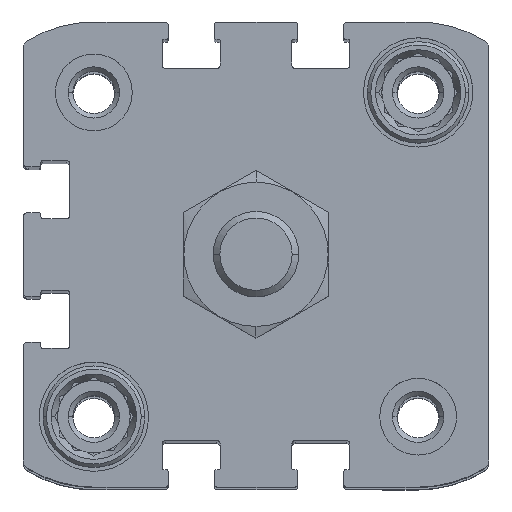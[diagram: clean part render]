
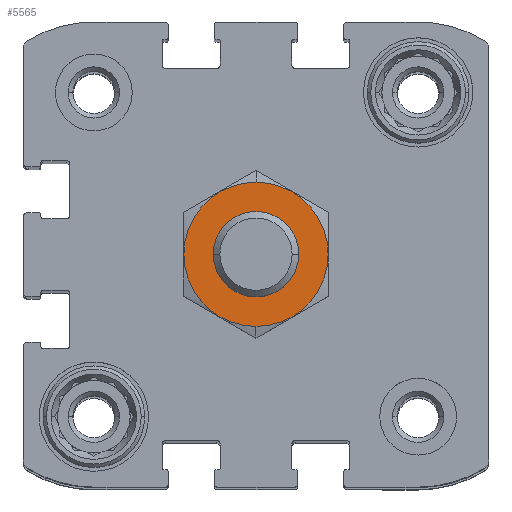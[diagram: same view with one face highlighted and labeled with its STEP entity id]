
A CAD part, top view. The second image highlights one B-rep face of the part: STEP entity #5565.
In plain terms, the highlighted planar face has unit normal (0, 0, 1) as drawn and (0, 1, 0) by its records, which use the part's own axes.
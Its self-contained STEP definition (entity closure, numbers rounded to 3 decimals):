
#660 = CARTESIAN_POINT ( 'NONE',  ( 0., 0., 5. ) ) ;
#1141 = CARTESIAN_POINT ( 'NONE',  ( 0., 0., 0. ) ) ;
#1164 = CARTESIAN_POINT ( 'NONE',  ( 0., 0., 0. ) ) ;
#2213 = FACE_BOUND ( 'NONE', #6248, .T. ) ;
#2420 = DIRECTION ( 'NONE',  ( 0., 0., 1. ) ) ;
#2450 = DIRECTION ( 'NONE',  ( 0., 0., 1. ) ) ;
#3128 = EDGE_CURVE ( 'NONE', #3954, #16281, #5214, .T. ) ;
#3702 = PLANE ( 'NONE',  #9769 ) ;
#3954 = VERTEX_POINT ( 'NONE', #15698 ) ;
#4249 = CIRCLE ( 'NONE', #6602, 8.45 ) ;
#4393 = DIRECTION ( 'NONE',  ( 0., -1., 0. ) ) ;
#4861 = CARTESIAN_POINT ( 'NONE',  ( 0., 0., 0. ) ) ;
#4968 = DIRECTION ( 'NONE',  ( 0., 0., -1. ) ) ;
#5214 = CIRCLE ( 'NONE', #14115, 5. ) ;
#5215 = ORIENTED_EDGE ( 'NONE', *, *, #3128, .F. ) ;
#5565 = ADVANCED_FACE ( 'NONE', ( #2213, #12244 ), #3702, .F. ) ;
#5824 = CARTESIAN_POINT ( 'NONE',  ( 0., 0., -8.45 ) ) ;
#6128 = DIRECTION ( 'NONE',  ( 0., 0., -1. ) ) ;
#6248 = EDGE_LOOP ( 'NONE', ( #13086, #5215 ) ) ;
#6602 = AXIS2_PLACEMENT_3D ( 'NONE', #4861, #13602, #6128 ) ;
#7407 = CIRCLE ( 'NONE', #10908, 5. ) ;
#7874 = ORIENTED_EDGE ( 'NONE', *, *, #16237, .F. ) ;
#8683 = ORIENTED_EDGE ( 'NONE', *, *, #10242, .F. ) ;
#9012 = EDGE_LOOP ( 'NONE', ( #8683, #7874 ) ) ;
#9534 = EDGE_CURVE ( 'NONE', #16281, #3954, #7407, .T. ) ;
#9769 = AXIS2_PLACEMENT_3D ( 'NONE', #16104, #12465, #4968 ) ;
#9938 = DIRECTION ( 'NONE',  ( 0., 1., 0. ) ) ;
#9981 = DIRECTION ( 'NONE',  ( 0., 1., 0. ) ) ;
#10091 = AXIS2_PLACEMENT_3D ( 'NONE', #11887, #4393, #13148 ) ;
#10098 = VERTEX_POINT ( 'NONE', #5824 ) ;
#10242 = EDGE_CURVE ( 'NONE', #10098, #12756, #4249, .T. ) ;
#10908 = AXIS2_PLACEMENT_3D ( 'NONE', #1164, #9981, #2450 ) ;
#11887 = CARTESIAN_POINT ( 'NONE',  ( 0., 0., 0. ) ) ;
#12244 = FACE_OUTER_BOUND ( 'NONE', #9012, .T. ) ;
#12465 = DIRECTION ( 'NONE',  ( 0., -1., 0. ) ) ;
#12756 = VERTEX_POINT ( 'NONE', #15478 ) ;
#13086 = ORIENTED_EDGE ( 'NONE', *, *, #9534, .F. ) ;
#13148 = DIRECTION ( 'NONE',  ( 0., 0., -1. ) ) ;
#13602 = DIRECTION ( 'NONE',  ( 0., -1., 0. ) ) ;
#14115 = AXIS2_PLACEMENT_3D ( 'NONE', #1141, #9938, #2420 ) ;
#14277 = CIRCLE ( 'NONE', #10091, 8.45 ) ;
#15478 = CARTESIAN_POINT ( 'NONE',  ( 0., 0., 8.45 ) ) ;
#15698 = CARTESIAN_POINT ( 'NONE',  ( 0., 0., -5. ) ) ;
#16104 = CARTESIAN_POINT ( 'NONE',  ( 0., 0., 0. ) ) ;
#16237 = EDGE_CURVE ( 'NONE', #12756, #10098, #14277, .T. ) ;
#16281 = VERTEX_POINT ( 'NONE', #660 ) ;
